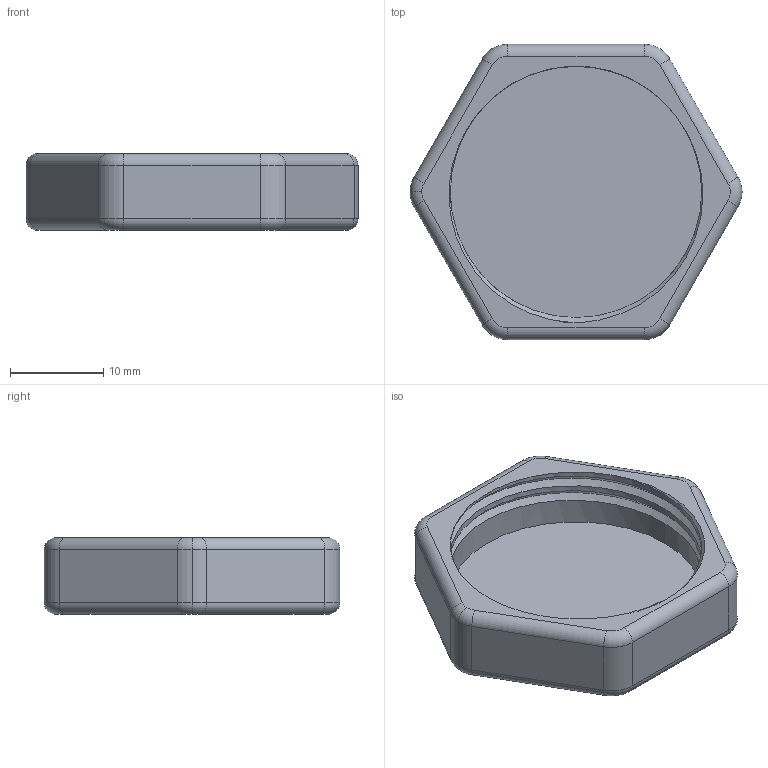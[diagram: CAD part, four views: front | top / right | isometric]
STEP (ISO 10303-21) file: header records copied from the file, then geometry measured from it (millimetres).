
FILE_DESCRIPTION (( 'STEP AP203' ), '1' );
FILE_NAME ('Twisted bottle top.STEP', '2011-10-17T16:15:01', ( 'EMS' ), ( 'Microsoft' ), 'SwSTEP 2.0', 'SolidWorks 2011', '' );
FILE_SCHEMA (( 'CONFIG_CONTROL_DESIGN' ));
Length unit declared in the file: millimetre
Products named in the file (1): Twisted bottle top
Bounding box: 35.68 x 31.75 x 8.26 mm (x, y, z)
Volume: 3281.9 mm3; surface area: 3133 mm2
Topology: 1 solids, 1 shells, 51 faces, 116 edges, 68 vertices
Faces by surface type: cylinder 25, torus 14, plane 10, bspline 2
Entity records: 2585 total; most frequent: CARTESIAN_POINT 1353, DIRECTION 260, ORIENTED_EDGE 232, EDGE_CURVE 116, AXIS2_PLACEMENT_3D 107, VERTEX_POINT 68, CIRCLE 57, EDGE_LOOP 52
